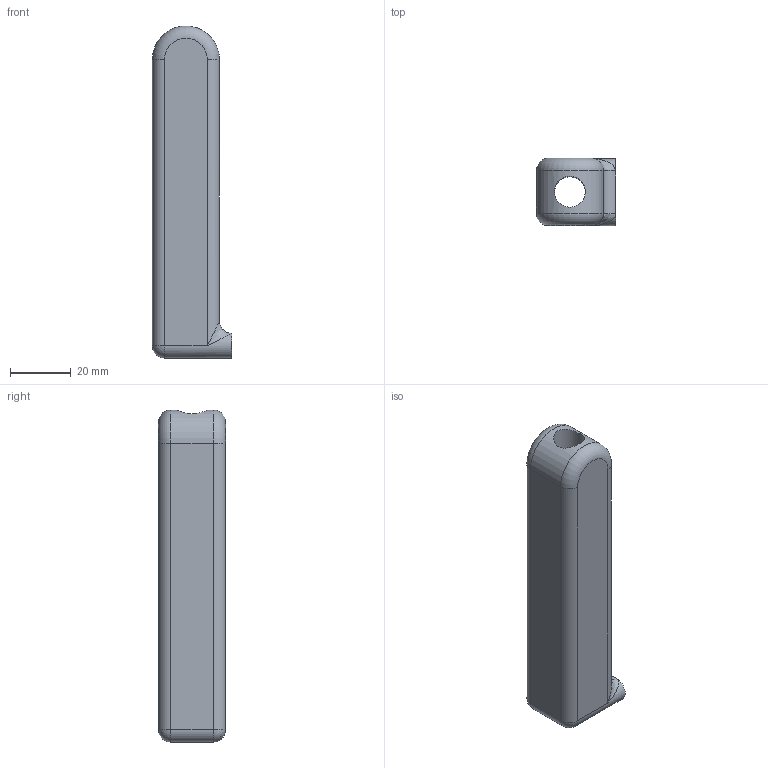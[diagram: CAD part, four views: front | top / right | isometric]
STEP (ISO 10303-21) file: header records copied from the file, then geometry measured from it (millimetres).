
FILE_DESCRIPTION(/* description */ (''),/* implementation_level */ '2;1');
FILE_NAME(/* name */ 'C:/Users/Owner/Desktop/K-CAD Songbird PM4 Centerfire/STEP/Barrels/Barrel Type 2/Barrel Type 2 .4 inch ID.step',/* time_stamp */ '2020-12-05T21:34:20-05:00',/* author */ (''),/* organization */ (''),/* preprocessor_version */ 'ST-DEVELOPER v18.1',/* originating_system */ 'Autodesk Translation Framework v9.3.0.1241',/* authorisation */ '');
FILE_SCHEMA (('AUTOMOTIVE_DESIGN { 1 0 10303 214 3 1 1 }'));
Length unit declared in the file: inch
Products named in the file (1): Barrel Type 2 .4 inch ID
Bounding box: 26 x 22 x 109 mm (x, y, z)
Volume: 41788.4 mm3; surface area: 12830.1 mm2
Topology: 1 solids, 1 shells, 22 faces, 49 edges, 26 vertices
Faces by surface type: cylinder 10, plane 6, bspline 2, sphere 2, torus 2
Full cylindrical faces by diameter (mm): 10.16 x1
Entity records: 732 total; most frequent: CARTESIAN_POINT 206, DIRECTION 112, ORIENTED_EDGE 92, EDGE_CURVE 46, AXIS2_PLACEMENT_3D 46, VERTEX_POINT 26, EDGE_LOOP 24, FACE_OUTER_BOUND 22
